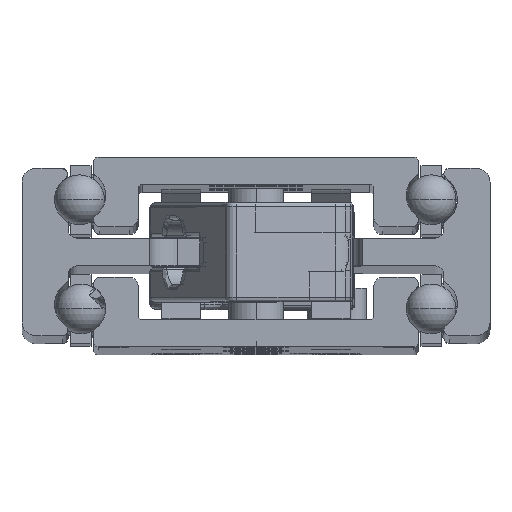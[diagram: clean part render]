
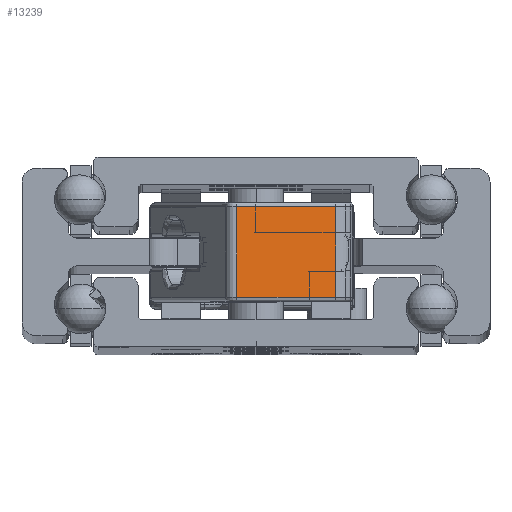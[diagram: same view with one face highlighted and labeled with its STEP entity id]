
A CAD part, top view. The second image highlights one B-rep face of the part: STEP entity #13239.
In plain terms, the highlighted planar face has unit normal (0.225, 0, 0.974) as drawn and (-1, 0, 0) by its records, which use the part's own axes.
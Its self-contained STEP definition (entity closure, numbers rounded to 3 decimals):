
#324 = DIRECTION ( 'NONE',  ( 0., 1., 0. ) ) ;
#617 = CARTESIAN_POINT ( 'NONE',  ( -37., -3., -4.9 ) ) ;
#649 = FACE_OUTER_BOUND ( 'NONE', #27839, .T. ) ;
#5208 = VECTOR ( 'NONE', #324, 1000. ) ;
#5418 = CARTESIAN_POINT ( 'NONE',  ( -37., 8., 5.4 ) ) ;
#5864 = VERTEX_POINT ( 'NONE', #25311 ) ;
#6731 = DIRECTION ( 'NONE',  ( 0., -1., 0. ) ) ;
#8855 = EDGE_CURVE ( 'NONE', #5864, #11696, #28163, .T. ) ;
#9275 = ORIENTED_EDGE ( 'NONE', *, *, #17590, .T. ) ;
#9852 = CARTESIAN_POINT ( 'NONE',  ( -37., -4., 5.4 ) ) ;
#10023 = EDGE_CURVE ( 'NONE', #11696, #17083, #15623, .T. ) ;
#10806 = ORIENTED_EDGE ( 'NONE', *, *, #8855, .T. ) ;
#11466 = AXIS2_PLACEMENT_3D ( 'NONE', #9852, #16919, #12724 ) ;
#11696 = VERTEX_POINT ( 'NONE', #23665 ) ;
#11763 = VECTOR ( 'NONE', #13682, 1000. ) ;
#12724 = DIRECTION ( 'NONE',  ( 0., 1., 0. ) ) ;
#13239 = ADVANCED_FACE ( 'NONE', ( #649 ), #28207, .F. ) ;
#13682 = DIRECTION ( 'NONE',  ( 0., 0., 1. ) ) ;
#15623 = LINE ( 'NONE', #27348, #20689 ) ;
#15784 = LINE ( 'NONE', #23009, #11763 ) ;
#16174 = EDGE_CURVE ( 'NONE', #24898, #5864, #25922, .T. ) ;
#16801 = ORIENTED_EDGE ( 'NONE', *, *, #16174, .T. ) ;
#16919 = DIRECTION ( 'NONE',  ( 1., 0., 0. ) ) ;
#17083 = VERTEX_POINT ( 'NONE', #617 ) ;
#17590 = EDGE_CURVE ( 'NONE', #17083, #24898, #15784, .T. ) ;
#18986 = DIRECTION ( 'NONE',  ( 0., 0., -1. ) ) ;
#19165 = CARTESIAN_POINT ( 'NONE',  ( -37., 8., 4.9 ) ) ;
#20689 = VECTOR ( 'NONE', #6731, 1000. ) ;
#22701 = ORIENTED_EDGE ( 'NONE', *, *, #10023, .T. ) ;
#23009 = CARTESIAN_POINT ( 'NONE',  ( -37., -3., 5.4 ) ) ;
#23665 = CARTESIAN_POINT ( 'NONE',  ( -37., 8., -4.9 ) ) ;
#24683 = CARTESIAN_POINT ( 'NONE',  ( -37., -3., 4.9 ) ) ;
#24898 = VERTEX_POINT ( 'NONE', #24683 ) ;
#25311 = CARTESIAN_POINT ( 'NONE',  ( -37., 8., 4.9 ) ) ;
#25922 = LINE ( 'NONE', #19165, #5208 ) ;
#27348 = CARTESIAN_POINT ( 'NONE',  ( -37., -4., -4.9 ) ) ;
#27839 = EDGE_LOOP ( 'NONE', ( #9275, #16801, #10806, #22701 ) ) ;
#28163 = LINE ( 'NONE', #5418, #28305 ) ;
#28207 = PLANE ( 'NONE',  #11466 ) ;
#28305 = VECTOR ( 'NONE', #18986, 1000. ) ;
